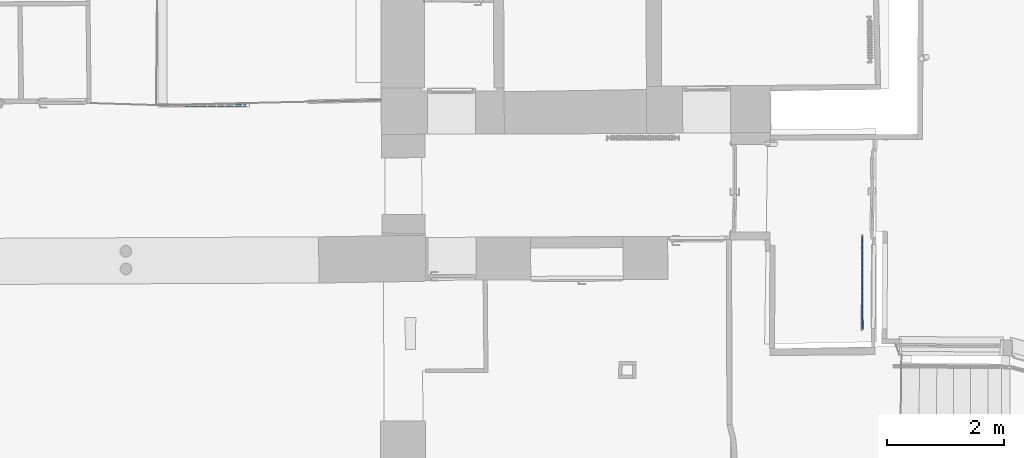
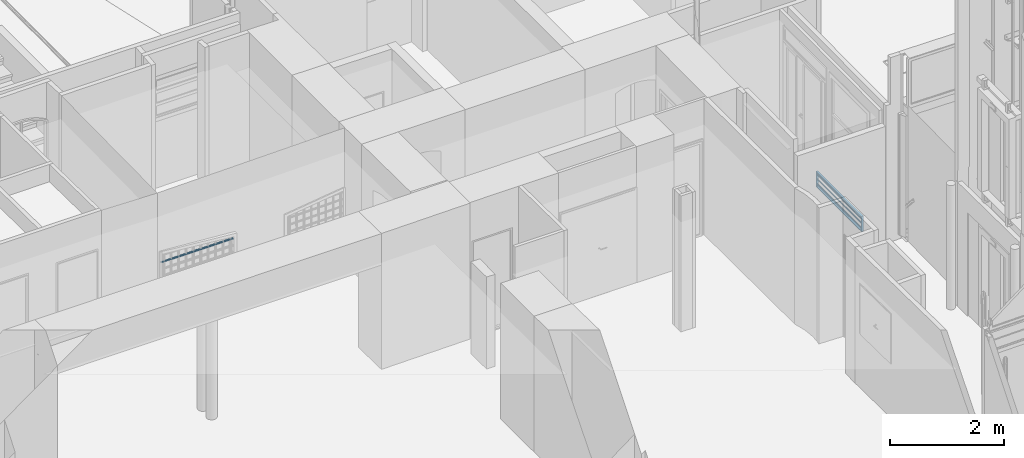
# One storey, part 32 of 133: 5 members, 2 elements without a shape of their own.
"""IFC2X3 building model written with IfcOpenShell, lengths in centimetres."""

from ifc_helpers import new_model, entity, si_unit, converted_unit, direction, frame, origin, origin_with_axes, place, context, subcontext, project, spatial, faceted_brep, material, type_object, element, aggregate, save


model = new_model("IFC2X3")

# Units and contexts
model_context = context("Model", 3, precision=0.0001, world=origin(), true_north=direction((0.225632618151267, 0.974212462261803, 0.0)))
body_context = subcontext(model_context, "Body", "Model", "MODEL_VIEW")
ifc_project = project(units=[si_unit("LENGTHUNIT", "METRE", prefix="CENTI"), si_unit("AREAUNIT", "SQUARE_METRE", prefix="CENTI"), si_unit("VOLUMEUNIT", "CUBIC_METRE", prefix="CENTI"), converted_unit("PLANEANGLEUNIT", "DEGREE", entity("IfcRatioMeasure", 0.0174532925), si_unit("PLANEANGLEUNIT", "RADIAN"), dimensions=[0, 0, 0, 0, 0, 0, 0])], contexts=[model_context])

# Site, building, storey
site_placement = place(None, origin_with_axes())
site = spatial("IfcSite", under=ifc_project, at=site_placement, Name="Default Site", CompositionType="ELEMENT")
building_placement = place(site_placement, origin_with_axes())
building = spatial("IfcBuilding", under=site, at=building_placement, Name="Default Building", CompositionType="ELEMENT")
storey_placement = place(building_placement, frame((0.0, 0.0, -291.400371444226), z_axis=(0.0, 0.0, 1.0), x_axis=(1.0, 0.0, 0.0)))
storey = spatial("IfcBuildingStorey", under=building, at=storey_placement, Name="Rez-de-Jardin", CompositionType="ELEMENT", Elevation=-291.400371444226)

# Assembly, members
building_element_proxy_type = type_object("IfcBuildingElementProxyType", Name="Type Object", PredefinedType="NOTDEFINED")
assembly_1_placement = place(storey_placement, frame((1053.90827276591, -19.9208693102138, 18.0), z_axis=(0.0, 0.0, 1.0), x_axis=(-1.22124532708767e-15, -1.0, 0.0)))
assembly_1 = element("IfcElementAssembly", 1, at=assembly_1_placement, inside=storey, type_object=building_element_proxy_type, Name="Panneau 73504", ObjectType="Precast panel", PredefinedType="USERDEFINED")
ifc_material_1 = material(Name="Beige")
member_1_placement = place(assembly_1_placement, frame((1.99999995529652, 1.99999995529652, 31.0000002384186), z_axis=(1.0, -1.66533484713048e-16, -9.57088798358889e-17), x_axis=(1.66533484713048e-16, 1.0, 0.0)))
member_1 = element("IfcMember", 2, at=member_1_placement, material=ifc_material_1, Name="4294966795", context=body_context, shape_type="Brep", body=[
    faceted_brep([(3.46944695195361e-16, 4.44089209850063e-14, -6.93889390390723e-16), (-3.99999991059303, 4.44089209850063e-14, -2.77554664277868e-17), (-3.99999991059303, -29.000000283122, -2.77554664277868e-17), (3.46944695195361e-16, -29.000000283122, -6.93889390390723e-16), (-3.99999991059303, 4.44089209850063e-14, 0.0), (-3.99999991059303, 2.00000107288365, -1.99999995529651), (-3.99999991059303, -31.0000002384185, -1.99999995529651), (-3.99999991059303, -29.000000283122, 2.77555756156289e-15), (0.0, 2.00000107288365, -1.99999995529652), (0.0, -31.0000002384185, -1.99999995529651), (3.33066961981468e-16, 4.44089209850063e-14, -6.93889390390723e-16), (3.33066961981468e-16, -29.000000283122, 2.08166817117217e-15), (-3.85185988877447e-31, -31.0000002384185, -1.99999995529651), (3.46944695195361e-16, -29.000000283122, 2.08166817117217e-15), (-3.99999991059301, -29.000000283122, 156.000004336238), (2.63677968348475e-14, -29.000000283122, 156.000004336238), (-3.99999991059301, -31.0000002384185, 158.000002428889), (2.67147415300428e-14, -31.0000002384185, 158.000002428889), (2.63122912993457e-14, -29.000000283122, 156.000004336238), (2.66453579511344e-14, -31.0000002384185, 158.000002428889), (-3.99999991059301, 6.10622663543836e-14, 156.000004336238), (2.63677968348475e-14, 6.10622663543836e-14, 156.000004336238), (-3.99999991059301, 2.00000107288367, 158.000002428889), (2.67147415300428e-14, 2.00000107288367, 158.000002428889), (2.63816748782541e-14, -29.000000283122, 156.000004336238), (2.63816748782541e-14, 6.10622663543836e-14, 156.000004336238), (-3.99999991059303, 5.16827961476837e-14, -4.37340342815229e-31), (3.46944695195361e-16, 5.16827961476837e-14, -6.93889390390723e-16), (-3.99999991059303, 4.44089209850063e-14, -1.15555818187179e-31), (4.02450540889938e-16, 4.44089209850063e-14, -6.93889390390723e-16), (6.93835789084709e-17, 2.00000107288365, -1.99999995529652)], [[[0, 1, 2, 3]], [[4, 5, 6, 7]], [[5, 8, 9, 6]], [[8, 10, 11, 12]], [[13, 7, 14, 15]], [[7, 6, 16, 14]], [[6, 9, 17, 16]], [[9, 11, 18, 19]], [[15, 14, 20, 21]], [[14, 16, 22, 20]], [[16, 17, 23, 22]], [[17, 24, 25, 23]], [[21, 20, 26, 27]], [[20, 22, 5, 28]], [[22, 23, 8, 5]], [[23, 25, 29, 30]]]),
])
member_2_placement = place(assembly_1_placement, frame((158.000004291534, 0.3420201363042, 25.5603075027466), z_axis=(1.0, 9.15931344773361e-16, 5.28816269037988e-16), x_axis=(1.05762794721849e-15, -0.86602415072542, -0.500002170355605)))
member_2 = element("IfcMember", 3, at=member_2_placement, material=ifc_material_1, Name="4294966794", context=body_context, shape_type="Brep", body=[
    faceted_brep([(-1.52655665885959e-13, -3.05311331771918e-14, 2.22044604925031e-14), (-0.347296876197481, -3.05311331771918e-14, 2.25717713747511e-14), (-0.673647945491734, -0.118779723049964, 2.29169293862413e-14), (-0.939693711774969, -0.342018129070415, 2.31983068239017e-14), (-1.11334216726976, -0.642784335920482, 2.33819622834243e-14), (-1.1736511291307, -0.984805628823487, 2.34457467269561e-14), (-1.11334356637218, -1.32682410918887, 2.33819637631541e-14), (-0.939696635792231, -1.62759289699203, 2.3198309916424e-14), (-0.673653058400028, -1.85083187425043, 2.2916934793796e-14), (-0.34730123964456, -1.96961451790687, 2.25717759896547e-14), (-4.36344723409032e-06, -1.96961451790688, 2.22044651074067e-14), (0.326346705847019, -1.85083479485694, 2.18593070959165e-14), (0.592392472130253, -1.62759638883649, 2.15779296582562e-14), (0.766040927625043, -1.32683018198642, 2.13942741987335e-14), (0.826349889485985, -0.984808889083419, 2.13304897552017e-14), (0.766042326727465, -0.642790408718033, 2.13942727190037e-14), (0.59239539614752, -0.34202162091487, 2.15779265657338e-14), (0.326351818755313, -0.118782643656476, 2.18593016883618e-14), (0.32635181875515, -0.118782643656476, -156.000004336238), (0.592395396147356, -0.34202162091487, -156.000004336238), (0.766042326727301, -0.642790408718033, -156.000004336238), (0.826349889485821, -0.984808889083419, -156.000004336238), (0.766040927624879, -1.32683018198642, -156.000004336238), (0.592392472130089, -1.62759638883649, -156.000004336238), (0.326346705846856, -1.85083479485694, -156.000004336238), (-4.36344739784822e-06, -1.96961451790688, -156.000004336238), (-0.347301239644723, -1.96961451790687, -156.000004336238), (-0.673653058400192, -1.85083187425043, -156.000004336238), (-0.939696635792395, -1.62759289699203, -156.000004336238), (-1.11334356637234, -1.32682410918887, -156.000004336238), (-1.17365112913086, -0.984805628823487, -156.000004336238), (-1.11334216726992, -0.642784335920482, -156.000004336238), (-0.93969371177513, -0.342018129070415, -156.000004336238), (-0.673647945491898, -0.118779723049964, -156.000004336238), (-0.347296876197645, -3.05311331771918e-14, -156.000004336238), (-3.1641356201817e-13, -3.05311331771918e-14, -156.000004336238), (0.326351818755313, -0.118782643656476, 2.22044604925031e-14), (0.592395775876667, -0.342021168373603, 2.2204460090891e-14), (0.592395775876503, -0.342021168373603, -156.000004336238), (0.326351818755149, -0.118782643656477, -156.000004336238), (0.59239539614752, -0.34202162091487, 2.22044604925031e-14), (0.766043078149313, -0.642789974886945, 2.22044596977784e-14), (0.766043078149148, -0.642789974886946, -156.000004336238), (0.592395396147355, -0.342021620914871, -156.000004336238), (0.766042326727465, -0.642790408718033, 2.22044604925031e-14), (0.826348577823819, -0.98480912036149, 2.22044618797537e-14), (0.826348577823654, -0.98480912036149, -156.000004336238), (0.7660423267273, -0.642790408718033, -156.000004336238), (0.826349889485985, -0.984808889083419, 2.22044604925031e-14), (0.766041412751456, -1.32683026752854, 2.22044599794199e-14), (0.76604141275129, -1.32683026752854, -156.000004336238), (0.82634988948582, -0.984808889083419, -156.000004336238), (0.766040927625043, -1.32683018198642, 2.22044604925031e-14), (0.592392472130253, -1.62759638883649, 2.22044604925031e-14), (0.592392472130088, -1.62759638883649, -156.000004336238), (0.326346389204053, -1.85083441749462, 2.22044608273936e-14), (0.326346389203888, -1.85083441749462, -156.000004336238), (0.326346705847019, -1.85083479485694, 2.22044604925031e-14), (-3.90791511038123e-06, -1.96961576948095, 2.22044600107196e-14), (-3.90791527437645e-06, -1.96961576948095, -156.000004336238), (0.326346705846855, -1.85083479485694, -156.000004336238), (-4.36344723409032e-06, -1.96961451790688, 2.22044604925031e-14), (-0.347301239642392, -1.96961365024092, 2.22044604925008e-14), (-0.347301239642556, -1.96961365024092, -156.000004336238), (-0.34730123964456, -1.96961451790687, 2.22044604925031e-14), (-0.673652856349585, -1.85083131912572, 2.22044602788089e-14), (-0.673652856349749, -1.85083131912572, -156.000004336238), (-0.673653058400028, -1.85083187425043, 2.22044604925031e-14), (-0.93969701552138, -1.6275933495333, 2.22044608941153e-14), (-0.939697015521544, -1.6275933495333, -156.000004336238), (-0.673653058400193, -1.85083187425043, -156.000004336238), (-0.939696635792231, -1.62759289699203, 2.22044604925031e-14), (-1.11334431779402, -1.32682454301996, 2.22044612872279e-14), (-1.11334431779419, -1.32682454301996, -156.000004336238), (-1.11334356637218, -1.32682410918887, 2.22044604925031e-14), (-1.17364981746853, -0.984805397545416, 2.22044591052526e-14), (-1.1736498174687, -0.984805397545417, -156.000004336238), (-1.1736511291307, -0.984805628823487, 2.22044604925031e-14), (-1.11334265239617, -0.642784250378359, 2.22044610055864e-14), (-1.11334265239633, -0.642784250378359, -156.000004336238), (-1.11334216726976, -0.642784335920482, 2.22044604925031e-14), (-0.93969371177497, -0.342018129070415, 2.22044604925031e-14), (-0.939693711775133, -0.342018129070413, -156.000004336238), (-1.11334216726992, -0.64278433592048, -156.000004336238), (-0.67364762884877, -0.118780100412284, 2.22044601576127e-14), (-0.673647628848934, -0.118780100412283, -156.000004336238), (-0.939693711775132, -0.342018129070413, -156.000004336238), (-0.673647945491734, -0.118779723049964, 2.22044604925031e-14), (-0.347297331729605, 1.25157404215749e-06, 2.22044609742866e-14), (-0.347297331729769, 1.25157404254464e-06, -156.000004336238), (-0.673647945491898, -0.118779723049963, -156.000004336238), (-0.347296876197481, -3.05311331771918e-14, 2.22044604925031e-14), (-2.32038089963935e-12, -8.67665981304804e-07, 2.22044604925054e-14), (-2.48413879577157e-12, -8.67665981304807e-07, -156.000004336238), (-0.347296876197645, -3.05311363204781e-14, -156.000004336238), (0.326351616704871, -0.118783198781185, 2.22044607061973e-14), (0.326351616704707, -0.118783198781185, -156.000004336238), (-3.16557688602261e-13, -3.09271146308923e-14, -156.000004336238)], [[[0, 1, 2, 3, 4, 5, 6, 7, 8, 9, 10, 11, 12, 13, 14, 15, 16, 17]], [[18, 19, 20, 21, 22, 23, 24, 25, 26, 27, 28, 29, 30, 31, 32, 33, 34, 35]], [[36, 37, 38, 39]], [[40, 41, 42, 43]], [[44, 45, 46, 47]], [[48, 49, 50, 51]], [[52, 53, 54, 22]], [[53, 55, 56, 54]], [[57, 58, 59, 60]], [[61, 62, 63, 25]], [[64, 65, 66, 26]], [[67, 68, 69, 70]], [[71, 72, 73, 28]], [[74, 75, 76, 29]], [[77, 78, 79, 30]], [[80, 81, 82, 83]], [[81, 84, 85, 86]], [[87, 88, 89, 90]], [[91, 92, 93, 94]], [[0, 95, 96, 97]]]),
])
member_3_placement = place(assembly_1_placement, frame((158.000004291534, 0.3420201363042, 15.560308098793), z_axis=(1.0, 9.15935274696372e-16, 5.28814000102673e-16), x_axis=(1.05763021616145e-15, -0.866026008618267, -0.499998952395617)))
member_3 = element("IfcMember", 4, at=member_3_placement, material=ifc_material_1, Name="4294966793", context=body_context, shape_type="Brep", body=[
    faceted_brep([(2.77555756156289e-14, -2.77555756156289e-14, 0.0), (-0.347296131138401, -2.77555756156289e-14, 3.67310882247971e-16), (-0.673647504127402, -0.118782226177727, 7.12469955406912e-16), (-0.939691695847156, -0.342020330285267, 9.93846331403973e-16), (-1.11333977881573, -0.642788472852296, 1.17750179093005e-15), (-1.17364672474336, -0.984808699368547, 1.24128423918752e-15), (-1.1133386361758, -1.32682824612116, 1.17750058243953e-15), (-0.939690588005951, -1.62759638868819, 9.9384515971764e-16), (-0.673645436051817, -1.85083308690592, 7.12467768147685e-16), (-0.347293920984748, -1.9696158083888, 3.67308544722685e-16), (2.95521017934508e-06, -1.96961451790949, -3.12551955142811e-21), (0.32635432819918, -1.85083229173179, -3.45162198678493e-16), (0.592398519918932, -1.62759418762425, -6.26538574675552e-16), (0.76604660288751, -1.32682604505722, -8.10194034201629e-16), (0.826353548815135, -0.984805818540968, -8.73976482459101e-16), (0.766045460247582, -0.642786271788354, -8.10192825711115e-16), (0.592396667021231, -0.34201941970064, -6.26536614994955e-16), (0.326352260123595, -0.118781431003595, -3.45160011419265e-16), (0.326352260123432, -0.118781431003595, -156.000004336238), (0.592396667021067, -0.34201941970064, -156.000004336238), (0.766045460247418, -0.642786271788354, -156.000004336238), (0.826353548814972, -0.984805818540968, -156.000004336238), (0.766046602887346, -1.32682604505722, -156.000004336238), (0.592398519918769, -1.62759418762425, -156.000004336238), (0.326354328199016, -1.85083229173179, -156.000004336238), (2.95521001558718e-06, -1.96961451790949, -156.000004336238), (-0.347293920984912, -1.9696158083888, -156.000004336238), (-0.673645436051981, -1.85083308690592, -156.000004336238), (-0.939690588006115, -1.62759638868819, -156.000004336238), (-1.11333863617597, -1.32682824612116, -156.000004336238), (-1.17364672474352, -0.984808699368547, -156.000004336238), (-1.11333977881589, -0.642788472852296, -156.000004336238), (-0.939691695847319, -0.342020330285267, -156.000004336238), (-0.673647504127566, -0.118782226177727, -156.000004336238), (-0.347296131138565, -2.77555756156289e-14, -156.000004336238), (-1.36002320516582e-13, -2.77555756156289e-14, -156.000004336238), (0.326352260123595, -0.118781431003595, 0.0), (0.592397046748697, -0.34201896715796, -4.01611242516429e-22), (0.592397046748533, -0.342018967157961, -156.000004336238), (0.326352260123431, -0.118781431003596, -156.000004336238), (0.592396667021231, -0.34201941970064, 0.0), (0.766045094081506, -0.642786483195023, 3.87268305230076e-22), (0.766045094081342, -0.642786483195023, -156.000004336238), (0.592396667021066, -0.34201941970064, -156.000004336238), (0.766045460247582, -0.642786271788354, 0.0), (0.826353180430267, -0.984805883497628, 3.89614968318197e-22), (0.826353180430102, -0.984805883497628, -156.000004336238), (0.766045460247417, -0.642786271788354, -156.000004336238), (0.826353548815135, -0.984805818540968, 0.0), (0.766046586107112, -1.3268260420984, 1.77474565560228e-23), (0.766046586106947, -1.3268260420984, -156.000004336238), (0.82635354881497, -0.984805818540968, -156.000004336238), (0.76604660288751, -1.32682604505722, 0.0), (0.592398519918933, -1.62759418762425, -9.53336654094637e-31), (0.592398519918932, -1.62759418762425, 0.0), (0.32635433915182, -1.8508323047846, -1.15838426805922e-23), (0.326354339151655, -1.8508323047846, -156.000004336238), (0.592398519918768, -1.62759418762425, -156.000004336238), (0.32635432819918, -1.85083229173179, 0.0), (3.08314934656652e-06, -1.96961486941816, -1.35312329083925e-22), (3.08314918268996e-06, -1.96961486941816, -156.000004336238), (2.95521017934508e-06, -1.96961451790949, 0.0), (-0.347293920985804, -1.96961494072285, 1.11720850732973e-27), (-0.347293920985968, -1.96961494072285, -156.000004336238), (-0.347293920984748, -1.9696158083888, 0.0), (-0.673645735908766, -1.85083391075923, 3.17137769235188e-22), (-0.67364573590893, -1.85083391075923, -156.000004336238), (-0.673645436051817, -1.85083308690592, 0.0), (-0.939690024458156, -1.62759571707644, -5.96025175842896e-22), (-0.939690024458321, -1.62759571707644, -156.000004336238), (-0.673645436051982, -1.85083308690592, -156.000004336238), (-0.939690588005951, -1.62759638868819, 0.0), (-1.11333938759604, -1.32682867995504, 7.94724744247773e-22), (-1.1133393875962, -1.32682867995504, -156.000004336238), (-0.939690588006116, -1.62759638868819, -156.000004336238), (-1.1133386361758, -1.32682824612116, 0.0), (-1.17364635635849, -0.984808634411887, -3.89614968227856e-22), (-1.17364635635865, -0.984808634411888, -156.000004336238), (-1.17364672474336, -0.984808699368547, 0.0), (-1.11333976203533, -0.642788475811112, -1.77474551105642e-23), (-1.1133397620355, -0.642788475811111, -156.000004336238), (-1.11333977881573, -0.642788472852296, 0.0), (-0.939691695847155, -0.342020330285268, -1.27111553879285e-30), (-1.1133397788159, -0.642788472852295, -156.000004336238), (-0.939691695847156, -0.342020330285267, 0.0), (-0.673647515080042, -0.11878221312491, 1.1583843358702e-23), (-0.673647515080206, -0.11878221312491, -156.000004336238), (-0.93969169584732, -0.342020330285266, -156.000004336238), (-0.673647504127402, -0.118782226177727, 0.0), (-0.347296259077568, 3.51508647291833e-07, 1.35312329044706e-22), (-0.347296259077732, 3.51508647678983e-07, -156.000004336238), (-0.347296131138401, -2.77555756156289e-14, 0.0), (-4.86993533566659e-13, 4.22812429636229e-07, 5.44414211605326e-28), (-6.50751429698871e-13, 4.2281242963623e-07, -156.000004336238), (-0.347296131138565, -2.77555741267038e-14, -156.000004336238), (0.326352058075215, -0.118781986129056, 2.13692472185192e-22), (0.326352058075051, -0.118781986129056, -156.000004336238), (-1.36146485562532e-13, -2.81516673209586e-14, -156.000004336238)], [[[0, 1, 2, 3, 4, 5, 6, 7, 8, 9, 10, 11, 12, 13, 14, 15, 16, 17]], [[18, 19, 20, 21, 22, 23, 24, 25, 26, 27, 28, 29, 30, 31, 32, 33, 34, 35]], [[36, 37, 38, 39]], [[40, 41, 42, 43]], [[44, 45, 46, 47]], [[48, 49, 50, 51]], [[52, 53, 23, 22]], [[54, 55, 56, 57]], [[58, 59, 60, 24]], [[61, 62, 63, 25]], [[64, 65, 66, 26]], [[67, 68, 69, 70]], [[71, 72, 73, 74]], [[75, 76, 77, 29]], [[78, 79, 80, 30]], [[81, 82, 32, 83]], [[84, 85, 86, 87]], [[88, 89, 90, 33]], [[91, 92, 93, 94]], [[0, 95, 96, 97]]]),
])
member_4_placement = place(assembly_1_placement, frame((158.000004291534, 0.3420201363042, 5.56030720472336), z_axis=(1.0, 9.15933309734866e-16, 5.28815134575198e-16), x_axis=(1.05762908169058e-15, -0.866025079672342, -0.5000005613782)))
member_4 = element("IfcMember", 5, at=member_4_placement, material=ifc_material_1, Name="4294966792", context=body_context, shape_type="Brep", body=[
    faceted_brep([(-7.97972798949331e-14, -8.53483950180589e-14, -6.66133814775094e-14), (-0.347296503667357, -8.53483950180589e-14, -6.62460705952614e-14), (-0.673648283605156, -0.118781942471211, -6.59009114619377e-14), (-0.93969307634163, -0.342019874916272, -6.56195347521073e-14), (-1.11334134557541, -0.642787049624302, -6.54358792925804e-14), (-1.17364892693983, -0.984807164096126, -6.5372096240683e-14), (-1.11334184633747, -1.32682746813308, -6.54358787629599e-14), (-0.939693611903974, -1.62759464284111, -6.5619534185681e-14), (-0.67364961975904, -1.85083312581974, -6.59009100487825e-14), (-0.347297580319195, -1.9696151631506, -6.62460694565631e-14), (-1.44918136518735e-06, -1.96961580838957, -6.66133799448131e-14), (0.326350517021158, -1.85083354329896, -6.69585392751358e-14), (0.592395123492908, -1.62759593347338, -6.72399157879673e-14), (0.76604339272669, -1.32682875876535, -6.74235712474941e-14), (0.826351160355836, -0.984808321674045, -6.74873544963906e-14), (0.766043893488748, -0.642788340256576, -6.74235717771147e-14), (0.5923960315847, -0.342020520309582, -6.72399167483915e-14), (0.326351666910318, -0.118782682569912, -6.6958540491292e-14), (0.326351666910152, -0.118782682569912, -156.000004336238), (0.592396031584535, -0.342020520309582, -156.000004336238), (0.766043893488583, -0.642788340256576, -156.000004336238), (0.826351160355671, -0.984808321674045, -156.000004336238), (0.766043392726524, -1.32682875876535, -156.000004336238), (0.592395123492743, -1.62759593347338, -156.000004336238), (0.326350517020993, -1.85083354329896, -156.000004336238), (-1.44918153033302e-06, -1.96961580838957, -156.000004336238), (-0.34729758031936, -1.9696151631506, -156.000004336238), (-0.673649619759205, -1.85083312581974, -156.000004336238), (-0.93969361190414, -1.62759464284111, -156.000004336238), (-1.11334184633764, -1.32682746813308, -156.000004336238), (-1.17364892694, -0.984807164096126, -156.000004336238), (-1.11334134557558, -0.642787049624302, -156.000004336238), (-0.939693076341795, -0.342019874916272, -156.000004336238), (-0.673648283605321, -0.118781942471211, -156.000004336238), (-0.347296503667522, -8.53483950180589e-14, -156.000004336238), (-2.44942954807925e-13, -8.53483950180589e-14, -156.000004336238), (0.326351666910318, -0.118782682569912, -6.66133814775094e-14), (0.592395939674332, -0.342020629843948, -6.66133813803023e-14), (0.592395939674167, -0.342020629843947, -156.000004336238), (0.5923960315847, -0.342020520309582, -6.66133814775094e-14), (0.766044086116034, -0.642788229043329, -6.66133816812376e-14), (0.766044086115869, -0.642788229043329, -156.000004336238), (0.766043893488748, -0.642788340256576, -6.66133814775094e-14), (0.826351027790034, -0.984808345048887, -6.66133813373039e-14), (0.826351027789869, -0.984808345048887, -156.000004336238), (0.826351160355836, -0.984808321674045, -6.66133814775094e-14), (0.766043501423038, -1.32682877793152, -6.66133815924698e-14), (0.766043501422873, -1.32682877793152, -156.000004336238), (0.76604339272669, -1.32682875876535, -6.66133814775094e-14), (0.592395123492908, -1.62759593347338, -6.66133814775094e-14), (0.326350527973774, -1.8508335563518, -6.66133814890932e-14), (0.326350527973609, -1.8508335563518, -156.000004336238), (0.326350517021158, -1.85083354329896, -6.66133814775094e-14), (-1.48504081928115e-06, -1.96961570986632, -6.66133814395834e-14), (-1.48504098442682e-06, -1.96961570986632, -156.000004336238), (-1.44918136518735e-06, -1.96961580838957, -6.66133814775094e-14), (-0.347297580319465, -1.96961558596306, -6.66133814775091e-14), (-0.347297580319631, -1.96961558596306, -156.000004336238), (-0.347297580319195, -1.9696151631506, -6.66133814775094e-14), (-0.673649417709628, -1.85083257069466, -6.66133816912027e-14), (-0.673649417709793, -1.85083257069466, -156.000004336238), (-0.67364961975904, -1.85083312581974, -6.66133814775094e-14), (-0.939693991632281, -1.62759509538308, -6.66133810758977e-14), (-0.939693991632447, -1.62759509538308, -156.000004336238), (-0.939693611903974, -1.62759464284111, -6.66133814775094e-14), (-1.113341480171, -1.32682725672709, -6.66133818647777e-14), (-1.11334148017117, -1.32682725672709, -156.000004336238), (-1.11334184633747, -1.32682746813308, -6.66133814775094e-14), (-1.17364903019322, -0.984807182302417, -6.66133813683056e-14), (-1.17364903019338, -0.984807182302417, -156.000004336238), (-1.17364892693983, -0.984807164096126, -6.66133814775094e-14), (-1.11334132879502, -0.642787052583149, -6.66133814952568e-14), (-1.11334132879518, -0.642787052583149, -156.000004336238), (-1.11334134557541, -0.642787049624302, -6.66133814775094e-14), (-0.93969307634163, -0.342019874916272, -6.66133814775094e-14), (-0.673648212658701, -0.118782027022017, -6.66133815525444e-14), (-0.673648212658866, -0.118782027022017, -156.000004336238), (-0.939693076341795, -0.342019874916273, -156.000004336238), (-0.673648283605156, -0.118781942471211, -6.66133814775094e-14), (-0.347296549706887, 1.26492748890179e-07, -6.66133814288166e-14), (-0.347296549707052, 1.2649274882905e-07, -156.000004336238), (-0.347296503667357, -8.53483950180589e-14, -6.66133814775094e-14), (-2.22250938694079e-13, -2.22426832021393e-07, -6.66133814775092e-14), (-3.8739661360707e-13, -2.22426832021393e-07, -156.000004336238), (-0.347296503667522, -8.53483948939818e-14, -156.000004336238), (0.326351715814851, -0.11878254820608, -6.66133815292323e-14), (0.326351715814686, -0.11878254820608, -156.000004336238), (-2.44924760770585e-13, -8.52984074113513e-14, -156.000004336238)], [[[0, 1, 2, 3, 4, 5, 6, 7, 8, 9, 10, 11, 12, 13, 14, 15, 16, 17]], [[18, 19, 20, 21, 22, 23, 24, 25, 26, 27, 28, 29, 30, 31, 32, 33, 34, 35]], [[36, 37, 38, 18]], [[39, 40, 41, 19]], [[42, 43, 44, 20]], [[45, 46, 47, 21]], [[48, 49, 23, 22]], [[49, 50, 51, 23]], [[52, 53, 54, 24]], [[55, 56, 57, 25]], [[58, 59, 60, 26]], [[61, 62, 63, 27]], [[64, 65, 66, 28]], [[67, 68, 69, 29]], [[70, 71, 72, 30]], [[73, 74, 32, 31]], [[74, 75, 76, 77]], [[78, 79, 80, 33]], [[81, 82, 83, 84]], [[0, 85, 86, 87]]]),
])
aggregate(assembly_1, [member_1, member_2, member_3, member_4])

# Assembly, member
assembly_2_placement = place(storey_placement, frame((-151.298940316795, 206.642558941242, 0.0), z_axis=(0.0, 0.0, 1.0), x_axis=(1.0, 0.0, 0.0)))
assembly_2 = element("IfcElementAssembly", 6, at=assembly_2_placement, inside=storey, type_object=building_element_proxy_type, Name="Panneau 76235", ObjectType="Precast panel", PredefinedType="USERDEFINED")
ifc_material_2 = material(Name="Noyer 01")
member_5_placement = place(assembly_2_placement, frame((150.0, -2.48696978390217, 139.09797668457), z_axis=(1.0, 0.0, 0.0), x_axis=(0.0, -0.866025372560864, -0.500000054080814)))
member_5 = element("IfcMember", 7, at=member_5_placement, material=ifc_material_2, Name="4294966772", context=body_context, shape_type="Brep", body=[
    faceted_brep([(-1.11022302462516e-14, 4.44089209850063e-14, 0.0), (-0.52094453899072, 4.44089209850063e-14, 0.0), (-1.0104714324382, -0.17817208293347, 0.0), (-1.40953479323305, -0.513022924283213, 0.0), (-1.67000711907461, -0.964174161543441, 0.0), (-1.7604707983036, -1.47720890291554, 0.0), (-1.67000896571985, -1.99023768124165, 0.0), (-1.40953675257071, -2.44138891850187, 0.0), (-1.0104675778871, -2.77624125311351, 0.0), (-0.520942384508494, -2.9544191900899, 0.0), (2.15448221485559e-06, -2.95441919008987, 0.0), (0.489529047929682, -2.77624710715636, 0.0), (0.888598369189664, -2.44138594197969, 0.0), (1.14907069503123, -1.99023470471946, 0.0), (1.23952841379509, -1.47721028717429, 0.0), (1.14906658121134, -0.964181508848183, 0.0), (0.888594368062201, -0.513030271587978, 0.0), (0.489531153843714, -0.178167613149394, 0.0), (0.489531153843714, -0.178167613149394, -146.000000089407), (0.888594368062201, -0.513030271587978, -146.000000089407), (1.14906658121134, -0.964181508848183, -146.000000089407), (1.23952841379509, -1.47721028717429, -146.000000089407), (1.14907069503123, -1.99023470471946, -146.000000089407), (0.888598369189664, -2.44138594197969, -146.000000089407), (0.489529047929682, -2.77624710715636, -146.000000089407), (2.15448221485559e-06, -2.95441919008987, -146.000000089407), (-0.520942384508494, -2.9544191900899, -146.000000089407), (-1.0104675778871, -2.77624125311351, -146.000000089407), (-1.40953675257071, -2.44138891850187, -146.000000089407), (-1.67000896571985, -1.99023768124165, -146.000000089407), (-1.7604707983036, -1.47720890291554, -146.000000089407), (-1.67000711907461, -0.964174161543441, -146.000000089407), (-1.40953479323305, -0.513022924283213, -146.000000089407), (-1.0104714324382, -0.17817208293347, -146.000000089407), (-0.52094453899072, 4.44089209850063e-14, -146.000000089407), (-1.11022302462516e-14, 4.44089209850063e-14, -146.000000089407), (0.888598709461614, -0.513025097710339, 0.0), (0.888598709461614, -0.513025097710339, -146.000000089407), (1.14906660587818, -0.964181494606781, 0.0), (1.14906660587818, -0.964181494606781, -146.000000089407), (1.23952740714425, -1.47721046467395, 0.0), (1.23952740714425, -1.47721046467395, -146.000000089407), (1.14906841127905, -1.99023430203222, 0.0), (1.14906841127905, -1.99023430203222, -146.000000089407), (0.888598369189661, -2.44138594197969, 0.0), (0.888598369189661, -2.44138594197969, -146.000000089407), (0.489527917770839, -2.7762457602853, 0.0), (0.489527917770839, -2.7762457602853, -146.000000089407), (2.50408830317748e-06, -2.95442015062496, 0.0), (2.50408830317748e-06, -2.95442015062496, -146.000000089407), (-0.520942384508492, -2.95441916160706, 0.0), (-0.520942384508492, -2.95441916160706, -146.000000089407), (-1.01046928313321, -2.77624593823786, 0.0), (-1.01046928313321, -2.77624593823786, -146.000000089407), (-1.40953354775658, -2.44138509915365, 0.0), (-1.40953354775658, -2.44138509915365, -146.000000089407), (-1.67000899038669, -1.99023769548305, 0.0), (-1.67000899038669, -1.99023769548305, -146.000000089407), (-1.76046979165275, -1.47720872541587, 0.0), (-1.76046979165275, -1.47720872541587, -146.000000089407), (-1.67000885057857, -0.964173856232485, 0.0), (-1.67000885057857, -0.964173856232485, -146.000000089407), (-1.40953479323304, -0.513022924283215, 0.0), (-1.40953479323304, -0.513022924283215, -146.000000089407), (-1.01047292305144, -0.178170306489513, 0.0), (-1.01047292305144, -0.178170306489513, -146.000000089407), (-0.520944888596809, 9.60535136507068e-07, 0.0), (-0.520944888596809, 9.60535136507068e-07, -146.000000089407), (-1.26595377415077e-14, -2.84827720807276e-08, 0.0), (-1.26595377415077e-14, -2.84827720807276e-08, -146.000000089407), (0.489528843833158, -0.1781739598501, 0.0), (0.489528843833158, -0.1781739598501, -146.000000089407)], [[[0, 1, 2, 3, 4, 5, 6, 7, 8, 9, 10, 11, 12, 13, 14, 15, 16, 17]], [[18, 19, 20, 21, 22, 23, 24, 25, 26, 27, 28, 29, 30, 31, 32, 33, 34, 35]], [[17, 36, 37, 18]], [[16, 38, 39, 19]], [[15, 40, 41, 20]], [[14, 42, 43, 21]], [[13, 44, 45, 22]], [[12, 46, 47, 23]], [[11, 48, 49, 24]], [[10, 50, 51, 25]], [[9, 52, 53, 26]], [[8, 54, 55, 27]], [[7, 56, 57, 28]], [[6, 58, 59, 29]], [[5, 60, 61, 30]], [[4, 62, 63, 31]], [[3, 64, 65, 32]], [[2, 66, 67, 33]], [[1, 68, 69, 34]], [[0, 70, 71, 35]]]),
])
aggregate(assembly_2, [member_5])

save(model, "model.ifc")
